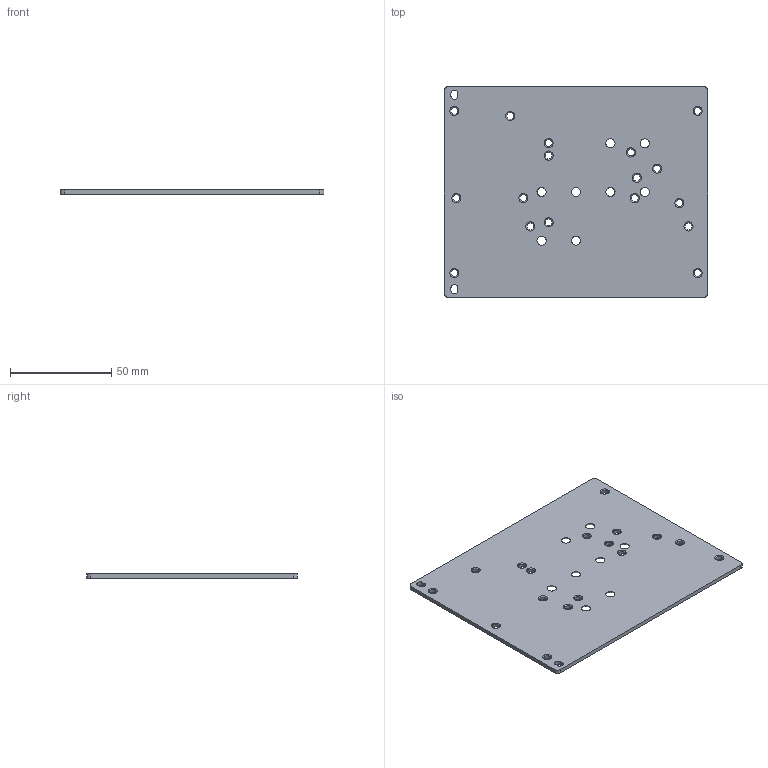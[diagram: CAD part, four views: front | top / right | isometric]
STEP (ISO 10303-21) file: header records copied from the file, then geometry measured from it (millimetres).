
FILE_DESCRIPTION((''),'2;1');
FILE_NAME('W:\mechanical\機構工程圖\3D圖檔\3D Outline-2020\已完成待審核\DRP-01.stp','2020-05-28T16:15:48',('shirley'),(''),'Autodesk Inventor 2010','Autodesk Inventor 2010','');
FILE_SCHEMA(('AUTOMOTIVE_DESIGN { 1 0 10303 214 1 1 1 1 }'));
Length unit declared in the file: millimetre
Products named in the file (1): DRP-01
Bounding box: 130 x 104 x 2 mm (x, y, z)
Volume: 26094.9 mm3; surface area: 27850.8 mm2
Topology: 1 solids, 1 shells, 60 faces, 167 edges, 108 vertices
Faces by surface type: cylinder 25, torus 17, plane 10, bspline 8
Full cylindrical faces by diameter (mm): 3.5 x17
Entity records: 1908 total; most frequent: CARTESIAN_POINT 421, DIRECTION 304, ORIENTED_EDGE 232, EDGE_LOOP 155, AXIS2_PLACEMENT_3D 136, EDGE_CURVE 116, VERTEX_POINT 99, FACE_BOUND 95
